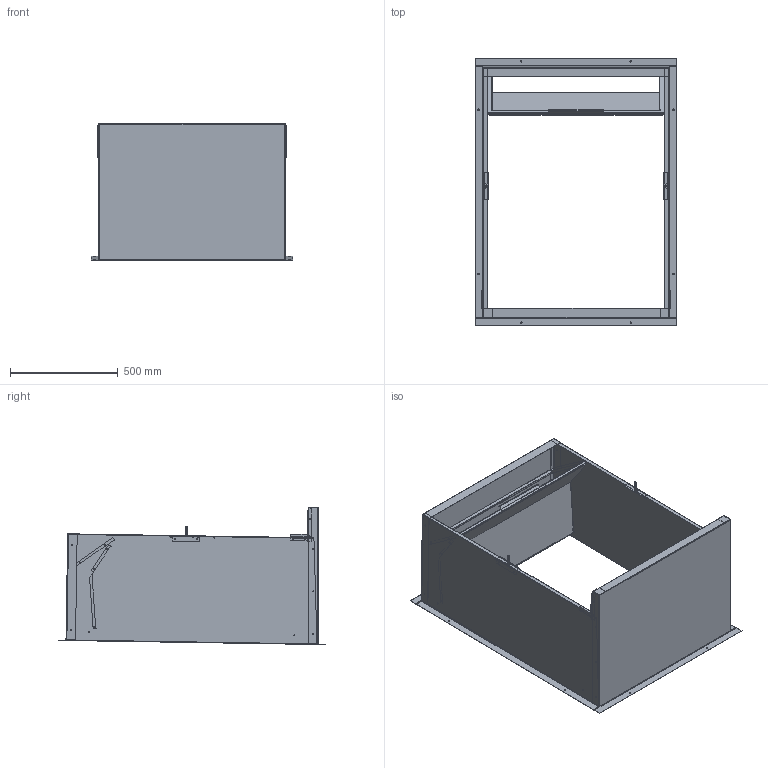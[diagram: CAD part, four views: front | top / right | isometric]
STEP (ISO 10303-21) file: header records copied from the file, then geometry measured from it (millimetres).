
FILE_DESCRIPTION (( 'STEP AP203' ), '1' );
FILE_NAME ('QWS42A-19.STEP', '2014-03-17T15:22:48', ( 'generic' ), ( 'Hewlett-Packard Company' ), 'SwSTEP 2.0', 'SolidWorks 2014', '' );
FILE_SCHEMA (( 'CONFIG_CONTROL_DESIGN' ));
Length unit declared in the file: inch
Products named in the file (11): 1012-036; 136-450; 110-122; 136-449; 110-123; QWS42A-19; 130-120; 110-103; 110-102; 120-398; 104-1060
Assembly tree (12 placements, depth 2):
  QWS42A-19
    110-122
    110-123
    130-120
    110-103
    110-102
    120-398
    104-1060  x2
    1012-036  x2
    136-450
    136-449
Bounding box: 937.37 x 1243.95 x 636.52 mm (x, y, z)
Volume: 3976530.5 mm3; surface area: 6141247.5 mm2
Topology: 12 solids, 12 shells, 1003 faces, 2353 edges, 1356 vertices
Faces by surface type: plane 418, cylinder 315, cone 236, bspline 34
Entity records: 27248 total; most frequent: CARTESIAN_POINT 5953, DIRECTION 4241, ORIENTED_EDGE 4080, EDGE_CURVE 2040, AXIS2_PLACEMENT_3D 1517, LINE 1207, VECTOR 1207, VERTEX_POINT 1191
